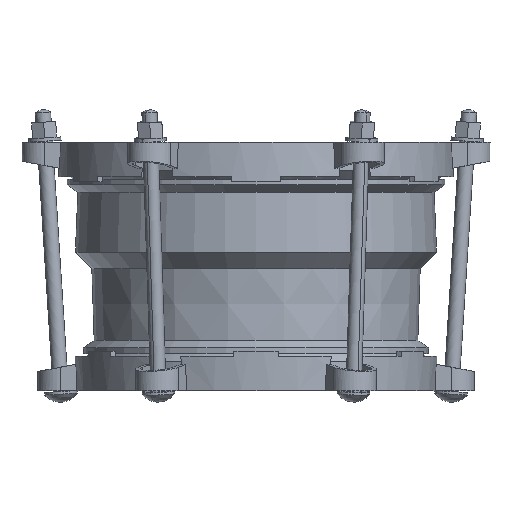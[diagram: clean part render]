
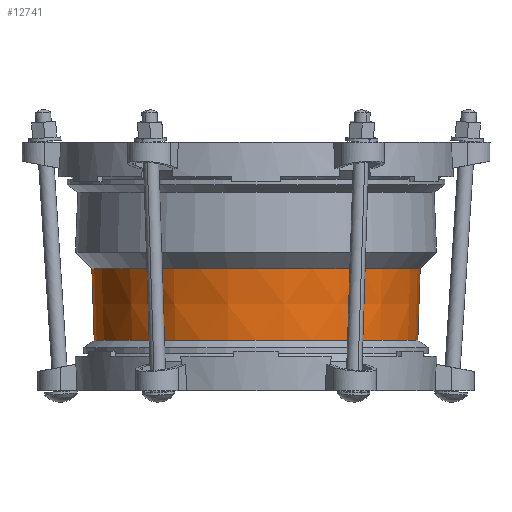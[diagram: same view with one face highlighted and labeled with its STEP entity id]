
A CAD part, left-side view. The second image highlights one B-rep face of the part: STEP entity #12741.
In plain terms, the highlighted conical face has half-angle 1.874 degrees and reference radius 128 mm.
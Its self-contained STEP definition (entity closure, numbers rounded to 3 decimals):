
#12394=DIRECTION('',(0.,0.033,0.999));
#12395=VECTOR('',#12394,56.432);
#12396=CARTESIAN_POINT('',(0.,127.077,-155.602));
#12397=LINE('',#12396,#12395);
#12403=DIRECTION('',(0.,-0.033,0.999));
#12404=VECTOR('',#12403,56.432);
#12405=CARTESIAN_POINT('',(0.,-127.077,
-155.602));
#12406=LINE('',#12405,#12404);
#12407=CARTESIAN_POINT('',(0.,0.,-155.602));
#12408=DIRECTION('',(0.,0.,1.));
#12409=DIRECTION('',(0.,1.,0.));
#12410=AXIS2_PLACEMENT_3D('',#12407,#12408,#12409);
#12412=CARTESIAN_POINT('',(0.,0.,-99.201));
#12413=DIRECTION('',(0.,0.,1.));
#12414=DIRECTION('',(0.,1.,0.));
#12415=AXIS2_PLACEMENT_3D('',#12412,#12413,#12414);
#12585=CARTESIAN_POINT('',(0.,127.077,-155.602));
#12587=VERTEX_POINT('',#12585);
#12588=CARTESIAN_POINT('',(0.,128.922,-99.201));
#12589=VERTEX_POINT('',#12588);
#12613=CARTESIAN_POINT('',(0.,-127.077,
-155.602));
#12615=VERTEX_POINT('',#12613);
#12616=CARTESIAN_POINT('',(0.,-128.922,
-99.201));
#12617=VERTEX_POINT('',#12616);
#12729=CARTESIAN_POINT('',(0.,0.,-127.401));
#12730=DIRECTION('',(0.,0.,1.));
#12731=DIRECTION('',(0.,1.,0.));
#12732=AXIS2_PLACEMENT_3D('',#12729,#12730,#12731);
#12733=CONICAL_SURFACE('',#12732,128.,1.874);
#12734=ORIENTED_EDGE('',*,*,#12719,.T.);
#12736=ORIENTED_EDGE('',*,*,#12735,.T.);
#12737=ORIENTED_EDGE('',*,*,#12722,.F.);
#12738=ORIENTED_EDGE('',*,*,#12693,.F.);
#12739=EDGE_LOOP('',(#12734,#12736,#12737,#12738));
#12740=FACE_OUTER_BOUND('',#12739,.F.);
#12741=ADVANCED_FACE('',(#12740),#12733,.T.);
#12411=CIRCLE('',#12410,127.077);
#12416=CIRCLE('',#12415,128.922);
#12693=EDGE_CURVE('',#12587,#12615,#12411,.T.);
#12719=EDGE_CURVE('',#12587,#12589,#12397,.T.);
#12722=EDGE_CURVE('',#12615,#12617,#12406,.T.);
#12735=EDGE_CURVE('',#12589,#12617,#12416,.T.);
